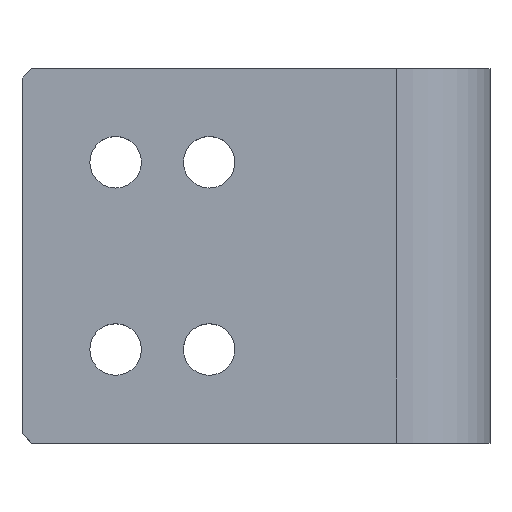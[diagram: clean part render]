
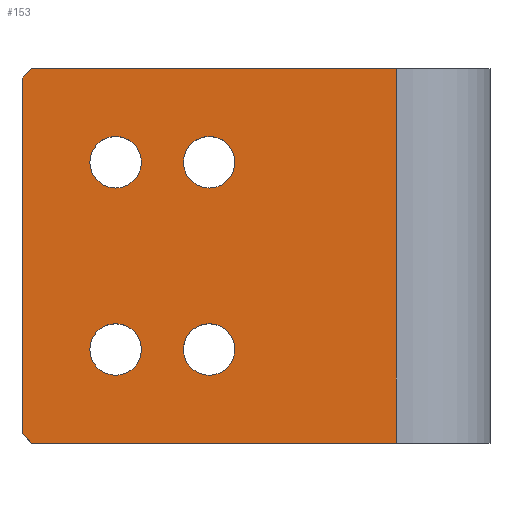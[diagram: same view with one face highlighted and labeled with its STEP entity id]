
A CAD part, top view. The second image highlights one B-rep face of the part: STEP entity #153.
In plain terms, the highlighted planar face has unit normal (0, 0, 1).
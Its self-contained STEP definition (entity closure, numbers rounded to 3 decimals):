
#1 = ORIENTED_EDGE ( 'NONE', *, *, #655, .T. ) ;
#8 = DIRECTION ( 'NONE',  ( 0., 0., 1. ) ) ;
#10 = CARTESIAN_POINT ( 'NONE',  ( 0., 0., 5. ) ) ;
#26 = FACE_BOUND ( 'NONE', #180, .T. ) ;
#38 = CARTESIAN_POINT ( 'NONE',  ( 10., 30., 5. ) ) ;
#40 = EDGE_CURVE ( 'NONE', #556, #347, #461, .T. ) ;
#42 = LINE ( 'NONE', #566, #585 ) ;
#46 = DIRECTION ( 'NONE',  ( 0., 0., -1. ) ) ;
#55 = CARTESIAN_POINT ( 'NONE',  ( 22.75, 30., 5. ) ) ;
#63 = CARTESIAN_POINT ( 'NONE',  ( 20., 30., 5. ) ) ;
#68 = LINE ( 'NONE', #170, #686 ) ;
#76 = VERTEX_POINT ( 'NONE', #55 ) ;
#79 = DIRECTION ( 'NONE',  ( 1., 0., 0. ) ) ;
#80 = EDGE_CURVE ( 'NONE', #246, #123, #594, .T. ) ;
#90 = AXIS2_PLACEMENT_3D ( 'NONE', #500, #106, #444 ) ;
#94 = ORIENTED_EDGE ( 'NONE', *, *, #259, .F. ) ;
#95 = VERTEX_POINT ( 'NONE', #548 ) ;
#96 = AXIS2_PLACEMENT_3D ( 'NONE', #63, #223, #387 ) ;
#104 = EDGE_CURVE ( 'NONE', #432, #95, #721, .T. ) ;
#106 = DIRECTION ( 'NONE',  ( 0., 0., 1. ) ) ;
#114 = CARTESIAN_POINT ( 'NONE',  ( 0., 40., 5. ) ) ;
#118 = CARTESIAN_POINT ( 'NONE',  ( 0., 1., 5. ) ) ;
#123 = VERTEX_POINT ( 'NONE', #439 ) ;
#124 = FACE_OUTER_BOUND ( 'NONE', #553, .T. ) ;
#128 = CARTESIAN_POINT ( 'NONE',  ( 1., 40., 5. ) ) ;
#144 = VECTOR ( 'NONE', #680, 1000. ) ;
#148 = VECTOR ( 'NONE', #288, 1000. ) ;
#152 = AXIS2_PLACEMENT_3D ( 'NONE', #609, #326, #329 ) ;
#153 = ADVANCED_FACE ( 'NONE', ( #175, #26, #471, #269, #124 ), #321, .F. ) ;
#159 = EDGE_CURVE ( 'NONE', #337, #174, #470, .T. ) ;
#160 = CIRCLE ( 'NONE', #152, 2.75 ) ;
#169 = CARTESIAN_POINT ( 'NONE',  ( 20., 10., 5. ) ) ;
#170 = CARTESIAN_POINT ( 'NONE',  ( 1., 0., 5. ) ) ;
#174 = VERTEX_POINT ( 'NONE', #446 ) ;
#175 = FACE_BOUND ( 'NONE', #726, .T. ) ;
#180 = EDGE_LOOP ( 'NONE', ( #698, #228 ) ) ;
#196 = ORIENTED_EDGE ( 'NONE', *, *, #159, .T. ) ;
#204 = EDGE_CURVE ( 'NONE', #208, #217, #713, .T. ) ;
#208 = VERTEX_POINT ( 'NONE', #465 ) ;
#211 = DIRECTION ( 'NONE',  ( 0.707, -0.707, 0. ) ) ;
#217 = VERTEX_POINT ( 'NONE', #677 ) ;
#220 = DIRECTION ( 'NONE',  ( 1., 0., 0. ) ) ;
#223 = DIRECTION ( 'NONE',  ( 0., 0., 1. ) ) ;
#225 = DIRECTION ( 'NONE',  ( -1., 0., 0. ) ) ;
#228 = ORIENTED_EDGE ( 'NONE', *, *, #80, .F. ) ;
#239 = VERTEX_POINT ( 'NONE', #334 ) ;
#244 = CIRCLE ( 'NONE', #256, 2.75 ) ;
#246 = VERTEX_POINT ( 'NONE', #449 ) ;
#249 = CARTESIAN_POINT ( 'NONE',  ( 12.75, 10., 5. ) ) ;
#256 = AXIS2_PLACEMENT_3D ( 'NONE', #425, #697, #357 ) ;
#259 = EDGE_CURVE ( 'NONE', #432, #477, #42, .T. ) ;
#266 = DIRECTION ( 'NONE',  ( 0., 0., 1. ) ) ;
#269 = FACE_BOUND ( 'NONE', #299, .T. ) ;
#271 = VERTEX_POINT ( 'NONE', #118 ) ;
#288 = DIRECTION ( 'NONE',  ( 0., 1., 0. ) ) ;
#291 = ORIENTED_EDGE ( 'NONE', *, *, #601, .F. ) ;
#299 = EDGE_LOOP ( 'NONE', ( #291, #327 ) ) ;
#301 = EDGE_CURVE ( 'NONE', #271, #174, #577, .T. ) ;
#320 = AXIS2_PLACEMENT_3D ( 'NONE', #545, #46, #372 ) ;
#321 = PLANE ( 'NONE',  #320 ) ;
#326 = DIRECTION ( 'NONE',  ( 0., 0., 1. ) ) ;
#327 = ORIENTED_EDGE ( 'NONE', *, *, #456, .F. ) ;
#329 = DIRECTION ( 'NONE',  ( 1., 0., 0. ) ) ;
#334 = CARTESIAN_POINT ( 'NONE',  ( 17.25, 30., 5. ) ) ;
#337 = VERTEX_POINT ( 'NONE', #128 ) ;
#347 = VERTEX_POINT ( 'NONE', #689 ) ;
#356 = CARTESIAN_POINT ( 'NONE',  ( 40., 0., 5. ) ) ;
#357 = DIRECTION ( 'NONE',  ( 1., 0., 0. ) ) ;
#361 = LINE ( 'NONE', #114, #144 ) ;
#372 = DIRECTION ( 'NONE',  ( -1., 0., 0. ) ) ;
#387 = DIRECTION ( 'NONE',  ( 1., 0., 0. ) ) ;
#398 = DIRECTION ( 'NONE',  ( 1., 0., 0. ) ) ;
#405 = ORIENTED_EDGE ( 'NONE', *, *, #204, .F. ) ;
#413 = DIRECTION ( 'NONE',  ( 0., 0., 1. ) ) ;
#425 = CARTESIAN_POINT ( 'NONE',  ( 20., 30., 5. ) ) ;
#428 = AXIS2_PLACEMENT_3D ( 'NONE', #169, #561, #220 ) ;
#429 = EDGE_CURVE ( 'NONE', #123, #246, #685, .T. ) ;
#432 = VERTEX_POINT ( 'NONE', #356 ) ;
#439 = CARTESIAN_POINT ( 'NONE',  ( 12.75, 30., 5. ) ) ;
#444 = DIRECTION ( 'NONE',  ( 1., 0., 0. ) ) ;
#446 = CARTESIAN_POINT ( 'NONE',  ( 0., 39., 5. ) ) ;
#449 = CARTESIAN_POINT ( 'NONE',  ( 7.25, 30., 5. ) ) ;
#456 = EDGE_CURVE ( 'NONE', #239, #76, #244, .T. ) ;
#461 = CIRCLE ( 'NONE', #90, 2.75 ) ;
#465 = CARTESIAN_POINT ( 'NONE',  ( 22.75, 10., 5. ) ) ;
#470 = LINE ( 'NONE', #716, #632 ) ;
#471 = FACE_BOUND ( 'NONE', #586, .T. ) ;
#477 = VERTEX_POINT ( 'NONE', #588 ) ;
#494 = DIRECTION ( 'NONE',  ( 0., 1., 0. ) ) ;
#500 = CARTESIAN_POINT ( 'NONE',  ( 10., 10., 5. ) ) ;
#519 = ORIENTED_EDGE ( 'NONE', *, *, #40, .F. ) ;
#539 = CARTESIAN_POINT ( 'NONE',  ( 40., 40., 5. ) ) ;
#545 = CARTESIAN_POINT ( 'NONE',  ( 0., 0., 5. ) ) ;
#547 = VECTOR ( 'NONE', #494, 1000. ) ;
#548 = CARTESIAN_POINT ( 'NONE',  ( 40., 40., 5. ) ) ;
#550 = AXIS2_PLACEMENT_3D ( 'NONE', #667, #266, #611 ) ;
#553 = EDGE_LOOP ( 'NONE', ( #666, #1, #94, #708, #610, #196 ) ) ;
#556 = VERTEX_POINT ( 'NONE', #249 ) ;
#561 = DIRECTION ( 'NONE',  ( 0., 0., 1. ) ) ;
#566 = CARTESIAN_POINT ( 'NONE',  ( 50., 0., 5. ) ) ;
#577 = LINE ( 'NONE', #10, #148 ) ;
#585 = VECTOR ( 'NONE', #225, 1000. ) ;
#586 = EDGE_LOOP ( 'NONE', ( #405, #683 ) ) ;
#588 = CARTESIAN_POINT ( 'NONE',  ( 1., 0., 5. ) ) ;
#594 = CIRCLE ( 'NONE', #550, 2.75 ) ;
#595 = CIRCLE ( 'NONE', #96, 2.75 ) ;
#601 = EDGE_CURVE ( 'NONE', #76, #239, #595, .T. ) ;
#608 = DIRECTION ( 'NONE',  ( -0.707, -0.707, 0. ) ) ;
#609 = CARTESIAN_POINT ( 'NONE',  ( 10., 10., 5. ) ) ;
#610 = ORIENTED_EDGE ( 'NONE', *, *, #640, .F. ) ;
#611 = DIRECTION ( 'NONE',  ( 1., 0., 0. ) ) ;
#632 = VECTOR ( 'NONE', #608, 1000. ) ;
#640 = EDGE_CURVE ( 'NONE', #337, #95, #361, .T. ) ;
#645 = AXIS2_PLACEMENT_3D ( 'NONE', #684, #8, #398 ) ;
#655 = EDGE_CURVE ( 'NONE', #271, #477, #68, .T. ) ;
#658 = AXIS2_PLACEMENT_3D ( 'NONE', #38, #413, #79 ) ;
#666 = ORIENTED_EDGE ( 'NONE', *, *, #301, .F. ) ;
#667 = CARTESIAN_POINT ( 'NONE',  ( 10., 30., 5. ) ) ;
#677 = CARTESIAN_POINT ( 'NONE',  ( 17.25, 10., 5. ) ) ;
#680 = DIRECTION ( 'NONE',  ( 1., 0., 0. ) ) ;
#683 = ORIENTED_EDGE ( 'NONE', *, *, #723, .F. ) ;
#684 = CARTESIAN_POINT ( 'NONE',  ( 20., 10., 5. ) ) ;
#685 = CIRCLE ( 'NONE', #658, 2.75 ) ;
#686 = VECTOR ( 'NONE', #211, 1000. ) ;
#688 = EDGE_CURVE ( 'NONE', #347, #556, #160, .T. ) ;
#689 = CARTESIAN_POINT ( 'NONE',  ( 7.25, 10., 5. ) ) ;
#690 = CIRCLE ( 'NONE', #645, 2.75 ) ;
#697 = DIRECTION ( 'NONE',  ( 0., 0., 1. ) ) ;
#698 = ORIENTED_EDGE ( 'NONE', *, *, #429, .F. ) ;
#708 = ORIENTED_EDGE ( 'NONE', *, *, #104, .T. ) ;
#709 = ORIENTED_EDGE ( 'NONE', *, *, #688, .F. ) ;
#713 = CIRCLE ( 'NONE', #428, 2.75 ) ;
#716 = CARTESIAN_POINT ( 'NONE',  ( 0., 39., 5. ) ) ;
#721 = LINE ( 'NONE', #539, #547 ) ;
#723 = EDGE_CURVE ( 'NONE', #217, #208, #690, .T. ) ;
#726 = EDGE_LOOP ( 'NONE', ( #519, #709 ) ) ;
